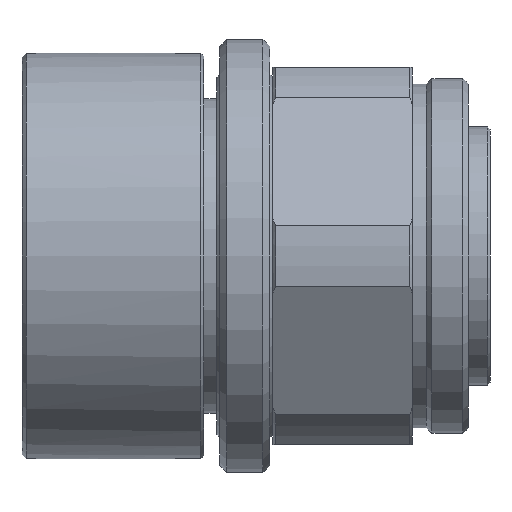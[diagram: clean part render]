
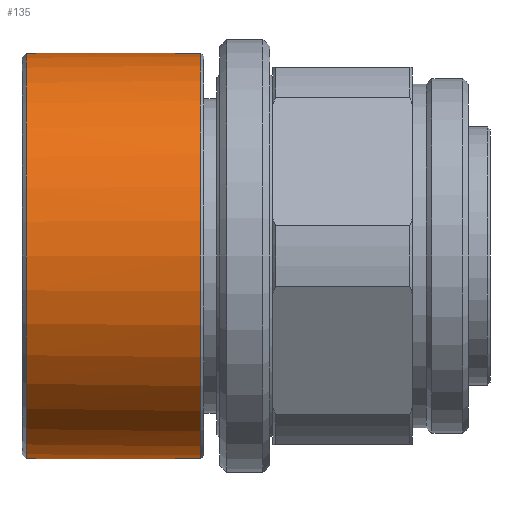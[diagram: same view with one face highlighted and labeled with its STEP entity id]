
A CAD part, front view. The second image highlights one B-rep face of the part: STEP entity #135.
In plain terms, the highlighted cylindrical face has radius 14.5 mm (diameter 29 mm), a partial arc.
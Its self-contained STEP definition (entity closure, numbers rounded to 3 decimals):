
#53 = CIRCLE ( 'NONE', #2279, 14.5 ) ;
#111 = DIRECTION ( 'NONE',  ( 1., 0., 0. ) ) ;
#135 = ADVANCED_FACE ( 'NONE', ( #735 ), #2804, .T. ) ;
#180 = CARTESIAN_POINT ( 'NONE',  ( -44.446, 0., -14.5 ) ) ;
#241 = ORIENTED_EDGE ( 'NONE', *, *, #1261, .T. ) ;
#274 = VECTOR ( 'NONE', #2679, 1000. ) ;
#410 = DIRECTION ( 'NONE',  ( -1., 0., 0. ) ) ;
#411 = CARTESIAN_POINT ( 'NONE',  ( -32.646, 0., 0. ) ) ;
#553 = VERTEX_POINT ( 'NONE', #1845 ) ;
#613 = EDGE_LOOP ( 'NONE', ( #1889, #1172, #3000, #832, #241, #3238, #2631, #3075 ) ) ;
#614 = EDGE_CURVE ( 'NONE', #1180, #3162, #731, .T. ) ;
#615 = EDGE_CURVE ( 'NONE', #2439, #553, #53, .T. ) ;
#689 = AXIS2_PLACEMENT_3D ( 'NONE', #2595, #842, #2890 ) ;
#731 = LINE ( 'NONE', #2320, #3735 ) ;
#735 = FACE_OUTER_BOUND ( 'NONE', #613, .T. ) ;
#817 = CARTESIAN_POINT ( 'NONE',  ( -44.446, -0.5, -14.491 ) ) ;
#832 = ORIENTED_EDGE ( 'NONE', *, *, #1744, .T. ) ;
#842 = DIRECTION ( 'NONE',  ( 1., 0., 0. ) ) ;
#970 = CARTESIAN_POINT ( 'NONE',  ( -32.646, 0., -14.5 ) ) ;
#993 = CARTESIAN_POINT ( 'NONE',  ( -32.646, 0., 14.5 ) ) ;
#1172 = ORIENTED_EDGE ( 'NONE', *, *, #1774, .T. ) ;
#1180 = VERTEX_POINT ( 'NONE', #993 ) ;
#1243 = CARTESIAN_POINT ( 'NONE',  ( -47.496, -0.5, -14.491 ) ) ;
#1261 = EDGE_CURVE ( 'NONE', #1373, #553, #1919, .T. ) ;
#1317 = CARTESIAN_POINT ( 'NONE',  ( -45.146, -0.5, -14.491 ) ) ;
#1373 = VERTEX_POINT ( 'NONE', #2289 ) ;
#1468 = VERTEX_POINT ( 'NONE', #817 ) ;
#1512 = CARTESIAN_POINT ( 'NONE',  ( -47.496, 0., -14.5 ) ) ;
#1540 = CARTESIAN_POINT ( 'NONE',  ( -44.446, 0., 0. ) ) ;
#1555 = VECTOR ( 'NONE', #111, 1000. ) ;
#1564 = AXIS2_PLACEMENT_3D ( 'NONE', #2040, #2088, #1788 ) ;
#1744 = EDGE_CURVE ( 'NONE', #3162, #1373, #2656, .T. ) ;
#1753 = VECTOR ( 'NONE', #3570, 1000. ) ;
#1774 = EDGE_CURVE ( 'NONE', #3133, #1180, #1782, .T. ) ;
#1782 = CIRCLE ( 'NONE', #3192, 14.5 ) ;
#1788 = DIRECTION ( 'NONE',  ( 0., 0., 1. ) ) ;
#1845 = CARTESIAN_POINT ( 'NONE',  ( -45.146, -0.5, 14.491 ) ) ;
#1876 = VERTEX_POINT ( 'NONE', #180 ) ;
#1889 = ORIENTED_EDGE ( 'NONE', *, *, #3693, .F. ) ;
#1919 = LINE ( 'NONE', #3245, #274 ) ;
#2040 = CARTESIAN_POINT ( 'NONE',  ( -47.496, 0., 0. ) ) ;
#2088 = DIRECTION ( 'NONE',  ( -1., 0., 0. ) ) ;
#2279 = AXIS2_PLACEMENT_3D ( 'NONE', #2458, #410, #2755 ) ;
#2289 = CARTESIAN_POINT ( 'NONE',  ( -44.446, -0.5, 14.491 ) ) ;
#2320 = CARTESIAN_POINT ( 'NONE',  ( -47.496, 0., 14.5 ) ) ;
#2353 = LINE ( 'NONE', #1243, #1555 ) ;
#2439 = VERTEX_POINT ( 'NONE', #1317 ) ;
#2458 = CARTESIAN_POINT ( 'NONE',  ( -45.146, 0., 0. ) ) ;
#2459 = DIRECTION ( 'NONE',  ( -1., 0., 0. ) ) ;
#2461 = CARTESIAN_POINT ( 'NONE',  ( -44.446, 0., 14.5 ) ) ;
#2538 = LINE ( 'NONE', #1512, #1753 ) ;
#2595 = CARTESIAN_POINT ( 'NONE',  ( -44.446, 0., 0. ) ) ;
#2608 = AXIS2_PLACEMENT_3D ( 'NONE', #1540, #3596, #3609 ) ;
#2631 = ORIENTED_EDGE ( 'NONE', *, *, #3743, .T. ) ;
#2656 = CIRCLE ( 'NONE', #2608, 14.5 ) ;
#2679 = DIRECTION ( 'NONE',  ( -1., 0., 0. ) ) ;
#2741 = DIRECTION ( 'NONE',  ( -1., 0., 0. ) ) ;
#2755 = DIRECTION ( 'NONE',  ( 0., 0., 1. ) ) ;
#2804 = CYLINDRICAL_SURFACE ( 'NONE', #1564, 14.5 ) ;
#2890 = DIRECTION ( 'NONE',  ( 0., 0., -1. ) ) ;
#3000 = ORIENTED_EDGE ( 'NONE', *, *, #614, .T. ) ;
#3075 = ORIENTED_EDGE ( 'NONE', *, *, #3482, .T. ) ;
#3082 = CIRCLE ( 'NONE', #689, 14.5 ) ;
#3133 = VERTEX_POINT ( 'NONE', #970 ) ;
#3162 = VERTEX_POINT ( 'NONE', #2461 ) ;
#3192 = AXIS2_PLACEMENT_3D ( 'NONE', #411, #2459, #3309 ) ;
#3238 = ORIENTED_EDGE ( 'NONE', *, *, #615, .F. ) ;
#3245 = CARTESIAN_POINT ( 'NONE',  ( -47.496, -0.5, 14.491 ) ) ;
#3309 = DIRECTION ( 'NONE',  ( 0., 0., 1. ) ) ;
#3482 = EDGE_CURVE ( 'NONE', #1468, #1876, #3082, .T. ) ;
#3570 = DIRECTION ( 'NONE',  ( -1., 0., 0. ) ) ;
#3596 = DIRECTION ( 'NONE',  ( 1., 0., 0. ) ) ;
#3609 = DIRECTION ( 'NONE',  ( 0., 0., -1. ) ) ;
#3693 = EDGE_CURVE ( 'NONE', #3133, #1876, #2538, .T. ) ;
#3735 = VECTOR ( 'NONE', #2741, 1000. ) ;
#3743 = EDGE_CURVE ( 'NONE', #2439, #1468, #2353, .T. ) ;
